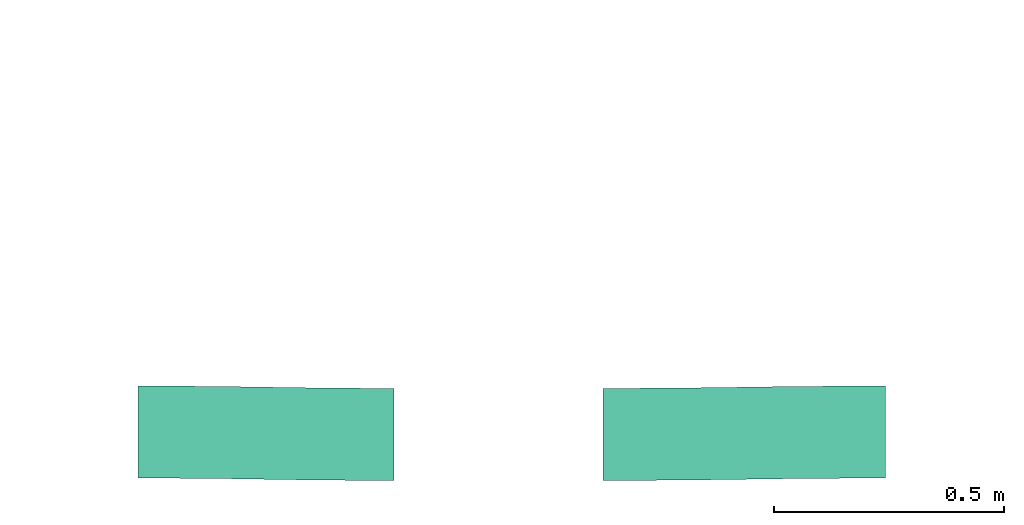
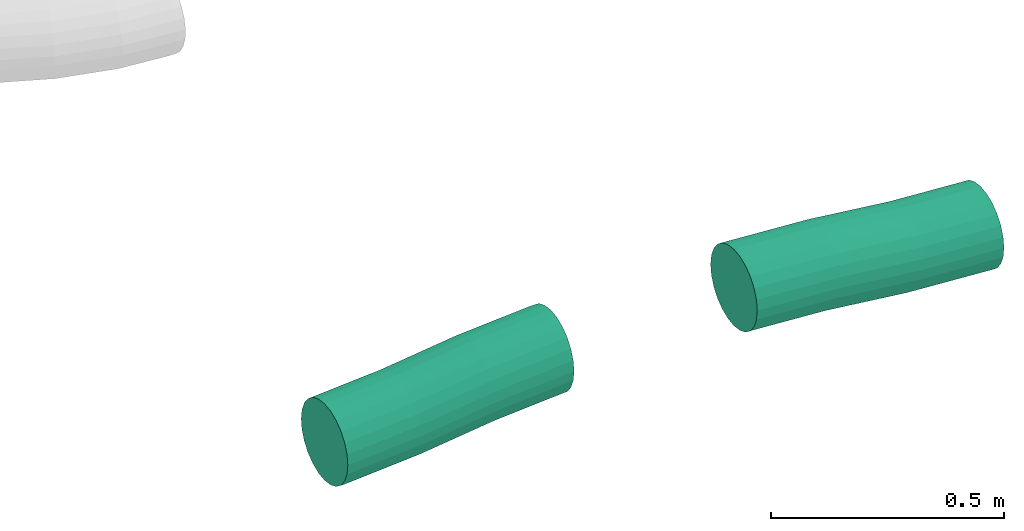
# One storey, part 2 of 3: 2 flow segments.
"""IFC2X3 building model written with IfcOpenShell, lengths in millimetres."""

from ifc_helpers import new_model, entity, si_unit, converted_unit, derived_unit, direction, frame, origin, place, context, subcontext, project, spatial, faceted_brep, type_object, element, save


model = new_model("IFC2X3")

# Units and contexts
model_context = context("Model", 3, precision=0.01, world=origin(), true_north=direction((6.123233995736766e-17, 1.0)))
body_context = subcontext(model_context, "Body", "Model", "MODEL_VIEW")
ifc_project = project(units=[si_unit("LENGTHUNIT", "METRE", prefix="MILLI"), converted_unit("PLANEANGLEUNIT", "DEGREE", entity("IfcPlaneAngleMeasure", 0.017453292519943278), si_unit("PLANEANGLEUNIT", "RADIAN"), dimensions=[0, 0, 0, 0, 0, 0, 0]), si_unit("AREAUNIT", "SQUARE_METRE"), derived_unit("THERMALTRANSMITTANCEUNIT", [(si_unit("MASSUNIT", "GRAM", prefix="KILO"), 1), (si_unit("THERMODYNAMICTEMPERATUREUNIT", "KELVIN"), -1), (si_unit("TIMEUNIT", "SECOND"), -3)])], contexts=[model_context])

# Site, building, storey
site_placement = place(None, origin())
site = spatial("IfcSite", under=ifc_project, at=site_placement, Name="Default", CompositionType="ELEMENT")
building_placement = place(site_placement, origin())
building = spatial("IfcBuilding", under=site, at=building_placement, Name="Praça Pedro II, 1301 - Centro (Sul), Teresina - PI, 64001-100", CompositionType="ELEMENT")
storey_placement = place(building_placement, origin())
storey = spatial("IfcBuildingStorey", under=building, at=storey_placement, Name="Nível 1", CompositionType="ELEMENT", Elevation=0.0)

# Flow segments
duct_segment_type = type_object("IfcDuctSegmentType", Name="Duto flexível redondo:Flexível - Redondo", PredefinedType="FLEXIBLESEGMENT")
flow_segment_1_placement = place(storey_placement, frame((36801.809507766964, -55167.35806085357, 2407.7816113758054)))
element("IfcFlowSegment", 1, at=flow_segment_1_placement, inside=storey, type_object=duct_segment_type, Name="Duto flexível redondo:Flexível - Redondo", ObjectType="Duto flexível redondo:Flexível - Redondo", context=body_context, shape_type="Brep", body=[
    faceted_brep([(0.0, 10.91952467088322, 75.71336772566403), (0.0, 7.512107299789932, 101.59527223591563), (0.0, 10.91952467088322, 127.47717674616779), (0.0, 20.909566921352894, 151.59527223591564), (0.0, 36.80142918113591, 172.30595035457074), (0.0, 57.51210729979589, 188.19781261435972), (0.0, 81.6302027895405, 198.1878548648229), (0.0, 107.51210729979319, 201.59527223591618), (0.0, 133.39401181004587, 198.1878548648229), (0.0, 157.51210729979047, 188.19781261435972), (0.0, 178.22278541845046, 172.30595035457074), (0.0, 194.11464767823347, 151.59527223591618), (0.0, 204.10468992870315, 127.47717674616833), (0.0, 207.51210729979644, 101.59527223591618), (0.0, 204.10468992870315, 75.71336772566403), (0.0, 194.11464767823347, 51.59527223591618), (0.0, 178.22278541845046, 30.884594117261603), (0.0, 157.51210729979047, 14.992731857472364), (0.0, 133.39401181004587, 5.002689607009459), (0.0, 107.51210729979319, 1.5952722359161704), (0.0, 81.6302027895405, 5.002689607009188), (0.0, 57.51210729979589, 14.992731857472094), (0.0, 36.80142918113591, 30.884594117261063), (0.0, 20.909566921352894, 51.59527223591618), (8.95952900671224, 204.10468992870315, 75.71336772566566), (9.863963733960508, 194.11464767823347, 51.59527223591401), (10.609189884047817, 178.22278541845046, 30.884594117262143), (7.957521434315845, 207.51210729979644, 101.59527223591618), (11.144421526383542, 157.51210729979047, 14.99273185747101), (11.43318350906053, 133.39401181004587, 5.002689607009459), (11.455797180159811, 107.51210729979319, 1.5952722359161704), (11.21072145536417, 81.6302027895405, 5.002689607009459), (10.714657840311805, 57.51210729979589, 14.99273185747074), (10.001412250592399, 36.80142918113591, 30.88459411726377), (9.11959119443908, 20.909566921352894, 51.59527223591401), (8.129289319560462, 10.91952467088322, 75.71336772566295), (7.09799406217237, 7.512107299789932, 101.59527223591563), (6.095986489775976, 10.91952467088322, 127.47717674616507), (5.191551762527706, 20.909566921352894, 151.59527223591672), (4.446325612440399, 36.80142918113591, 172.30595035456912), (3.6223319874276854, 81.6302027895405, 198.1878548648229), (3.5997183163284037, 107.51210729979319, 201.59527223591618), (3.911093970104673, 57.51210729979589, 188.1978126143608), (4.340857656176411, 157.51210729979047, 188.19781261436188), (5.054103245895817, 178.22278541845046, 172.30595035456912), (3.844794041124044, 133.39401181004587, 198.1878548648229), (6.926226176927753, 204.10468992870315, 127.47717674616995), (5.935924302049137, 194.11464767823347, 151.59527223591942), (556.5663529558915, 14.992731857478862, 105.67513564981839), (556.5663529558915, 30.884594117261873, 84.96445753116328), (556.5663529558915, 51.59527223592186, 69.07259527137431), (556.5663529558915, 75.71336772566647, 59.082553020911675), (556.5663529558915, 101.59527223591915, 55.67513564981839), (556.5663529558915, 127.47717674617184, 59.082553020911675), (556.5663529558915, 151.59527223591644, 69.07259527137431), (556.5663529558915, 172.30595035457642, 84.96445753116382), (556.5663529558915, 188.19781261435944, 105.67513564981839), (556.5663529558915, 198.18785486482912, 129.79323113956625), (556.5663529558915, 201.5952722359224, 155.6751356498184), (556.5663529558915, 198.18785486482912, 181.55704016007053), (556.5663529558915, 188.19781261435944, 205.6751356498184), (556.5663529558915, 172.30595035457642, 226.38581376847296), (556.5663529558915, 151.59527223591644, 242.27767602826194), (556.5663529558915, 127.47717674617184, 252.2677182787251), (556.5663529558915, 101.59527223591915, 255.6751356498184), (556.5663529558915, 75.71336772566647, 252.2677182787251), (556.5663529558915, 51.59527223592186, 242.27767602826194), (556.5663529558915, 30.884594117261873, 226.38581376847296), (556.5663529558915, 14.992731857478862, 205.67513564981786), (556.5663529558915, 5.002689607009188, 181.55704016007), (556.5663529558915, 1.5952722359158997, 155.67513564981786), (556.5663529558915, 5.002689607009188, 129.79323113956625), (186.91065694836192, 205.97155066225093, 115.67595754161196), (189.68997416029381, 202.54883293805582, 89.93389823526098), (192.1986488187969, 192.54498024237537, 65.94203019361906), (194.2657188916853, 176.64173860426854, 45.33535957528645), (195.75031696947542, 155.9228876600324, 29.518196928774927), (196.55127014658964, 131.80038286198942, 19.56845574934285), (196.61399478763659, 105.91813304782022, 16.164194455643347), (195.93421631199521, 80.0399707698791, 19.537407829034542), (194.55826049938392, 55.92945002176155, 29.458216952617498), (192.57989646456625, 35.229662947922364, 45.25053507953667), (190.1339464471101, 19.351265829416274, 65.83814182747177), (187.38709789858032, 9.376345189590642, 89.81802581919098), (184.52654400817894, 5.984675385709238, 115.55599758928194), (181.74722679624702, 9.407393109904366, 141.29805689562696), (179.23855213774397, 19.411245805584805, 165.2899249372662), (177.17148206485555, 35.31448744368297, 185.8965955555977), (175.68688398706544, 56.033338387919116, 201.71375820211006), (174.88593080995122, 80.15584318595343, 211.66349938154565), (174.82320616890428, 106.03809300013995, 215.06776067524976), (175.50298464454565, 131.91625527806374, 211.69454730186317), (176.87894045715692, 156.0267760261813, 201.77373817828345), (178.85730449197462, 176.72656310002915, 185.98142005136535), (184.0501030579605, 202.57988085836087, 141.4139293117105), (181.30325450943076, 192.60496021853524, 165.39381330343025), (374.8191261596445, 199.69998642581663, 115.97235099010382), (377.3278008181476, 189.6961337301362, 91.98048294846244), (372.0398089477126, 203.12270415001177, 141.71441029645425), (379.39487089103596, 173.79289209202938, 71.37381233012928), (380.8794689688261, 153.0740411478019, 55.55664968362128), (381.6804221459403, 128.95153634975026, 45.60690850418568), (381.7431467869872, 103.06928653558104, 42.20264721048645), (381.06336831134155, 77.19112425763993, 45.57586058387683), (379.6874124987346, 53.08060350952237, 55.49666970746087), (377.70904846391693, 32.38081643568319, 71.28898783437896), (372.516249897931, 6.527498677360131, 115.85647857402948), (369.6556960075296, 3.135828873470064, 141.5944503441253), (375.2630984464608, 16.5024193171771, 91.87659458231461), (366.8763787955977, 6.558546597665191, 167.33650965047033), (364.3677041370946, 16.56239929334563, 191.32837769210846), (362.30063406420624, 32.465640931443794, 211.9350483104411), (360.8160359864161, 53.18449187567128, 227.75221095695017), (360.0150828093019, 77.30699667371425, 237.70195213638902), (359.95235816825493, 103.18924648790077, 241.10621343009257), (360.63213664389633, 129.06740876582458, 237.73300005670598), (362.0080924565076, 153.17792951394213, 227.8121909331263), (363.98645649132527, 173.87771658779, 212.01987280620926), (366.4324065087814, 189.75611370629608, 191.4322660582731), (369.1792550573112, 199.7310343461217, 167.45238206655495), (550.4703664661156, 198.18785486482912, 129.79323113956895), (551.3748011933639, 188.19781261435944, 105.6751356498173), (549.4683588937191, 201.5952722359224, 155.67513564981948), (552.1200273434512, 172.30595035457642, 84.96445753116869), (552.6552589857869, 151.59527223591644, 69.07259527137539), (552.9440209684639, 127.47717674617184, 59.08255302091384), (552.9666346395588, 101.59527223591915, 55.675135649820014), (552.7215589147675, 75.71336772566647, 59.082553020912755), (552.2254952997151, 51.59527223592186, 69.07259527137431), (551.5122497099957, 30.884594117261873, 84.96445753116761), (549.6401267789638, 5.002689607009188, 129.79323113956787), (548.6088315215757, 1.5952722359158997, 155.67513564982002), (550.6304286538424, 14.992731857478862, 105.67513564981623), (547.6068239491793, 5.002689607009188, 181.5570401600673), (546.702389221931, 14.992731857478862, 205.67513564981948), (545.9571630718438, 30.884594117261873, 226.38581376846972), (545.4219314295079, 51.59527223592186, 242.2776760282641), (545.133169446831, 75.71336772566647, 252.26771827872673), (545.1105557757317, 101.59527223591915, 255.67513564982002), (545.3556315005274, 127.47717674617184, 252.2677182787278), (545.8516951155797, 151.59527223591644, 242.27767602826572), (546.5649407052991, 172.30595035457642, 226.38581376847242), (547.4467617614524, 188.19781261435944, 205.67513564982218), (548.437063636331, 198.18785486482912, 181.55704016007)], [[[0, 1, 2, 3, 4, 5, 6, 7, 8, 9, 10, 11, 12, 13, 14, 15, 16, 17, 18, 19, 20, 21, 22, 23]], [[15, 14, 24, 25]], [[16, 15, 25, 26]], [[13, 27, 24, 14]], [[18, 17, 28, 29]], [[19, 18, 29, 30]], [[26, 28, 17, 16]], [[19, 30, 31, 20]], [[20, 31, 32, 21]], [[21, 32, 33, 22]], [[23, 34, 35, 0]], [[0, 35, 36, 1]], [[22, 33, 34, 23]], [[37, 38, 3, 2]], [[36, 37, 2, 1]], [[3, 38, 39, 4]], [[40, 41, 7, 6]], [[42, 40, 6, 5]], [[4, 39, 42, 5]], [[9, 43, 44, 10]], [[45, 43, 9, 8]], [[7, 41, 45, 8]], [[46, 27, 13, 12]], [[47, 46, 12, 11]], [[44, 47, 11, 10]], [[48, 49, 50, 51, 52, 53, 54, 55, 56, 57, 58, 59, 60, 61, 62, 63, 64, 65, 66, 67, 68, 69, 70, 71]], [[27, 72, 73, 24]], [[24, 73, 74, 25]], [[75, 26, 25, 74]], [[28, 76, 77, 29]], [[29, 77, 78, 30]], [[76, 28, 26, 75]], [[31, 30, 78, 79]], [[32, 31, 79, 80]], [[80, 81, 33, 32]], [[34, 33, 81, 82]], [[35, 34, 82, 83]], [[36, 35, 83, 84]], [[85, 86, 38, 37]], [[84, 85, 37, 36]], [[39, 38, 86, 87]], [[88, 89, 40, 42]], [[87, 88, 42, 39]], [[41, 40, 89, 90]], [[91, 92, 43, 45]], [[90, 91, 45, 41]], [[93, 44, 43, 92]], [[94, 72, 27, 46]], [[95, 94, 46, 47]], [[95, 47, 44, 93]], [[96, 97, 74, 73]], [[98, 96, 73, 72]], [[99, 75, 74, 97]], [[100, 101, 77, 76]], [[100, 76, 75, 99]], [[102, 78, 77, 101]], [[103, 104, 80, 79]], [[102, 103, 79, 78]], [[104, 105, 81, 80]], [[106, 107, 84, 83]], [[108, 106, 83, 82]], [[105, 108, 82, 81]], [[85, 84, 107, 109]], [[86, 85, 109, 110]], [[87, 86, 110, 111]], [[89, 88, 112, 113]], [[90, 89, 113, 114]], [[111, 112, 88, 87]], [[90, 114, 115, 91]], [[91, 115, 116, 92]], [[117, 93, 92, 116]], [[93, 117, 118, 95]], [[95, 118, 119, 94]], [[98, 72, 94, 119]], [[120, 121, 97, 96]], [[122, 120, 96, 98]], [[123, 99, 97, 121]], [[124, 125, 101, 100]], [[124, 100, 99, 123]], [[126, 102, 101, 125]], [[127, 128, 104, 103]], [[126, 127, 103, 102]], [[105, 104, 128, 129]], [[130, 131, 107, 106]], [[132, 130, 106, 108]], [[129, 132, 108, 105]], [[109, 107, 131, 133]], [[110, 109, 133, 134]], [[111, 110, 134, 135]], [[113, 112, 136, 137]], [[114, 113, 137, 138]], [[135, 136, 112, 111]], [[114, 138, 139, 115]], [[115, 139, 140, 116]], [[116, 140, 141, 117]], [[117, 141, 142, 118]], [[118, 142, 143, 119]], [[122, 98, 119, 143]], [[120, 122, 58, 57]], [[121, 120, 57, 56]], [[123, 121, 56, 55]], [[125, 124, 54, 53]], [[126, 125, 53, 52]], [[123, 55, 54, 124]], [[126, 52, 51, 127]], [[127, 51, 50, 128]], [[128, 50, 49, 129]], [[132, 48, 71, 130]], [[130, 71, 70, 131]], [[132, 129, 49, 48]], [[131, 70, 69, 133]], [[133, 69, 68, 134]], [[134, 68, 67, 135]], [[136, 66, 65, 137]], [[137, 65, 64, 138]], [[135, 67, 66, 136]], [[139, 138, 64, 63]], [[140, 139, 63, 62]], [[141, 140, 62, 61]], [[143, 142, 60, 59]], [[122, 143, 59, 58]], [[61, 60, 142, 141]]]),
])
flow_segment_2_placement = place(storey_placement, frame((37811.57586072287, -55167.358060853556, 2407.7816113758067)))
element("IfcFlowSegment", 2, at=flow_segment_2_placement, inside=storey, type_object=duct_segment_type, Name="Duto flexível redondo:Flexível - Redondo", ObjectType="Duto flexível redondo:Flexível - Redondo", context=body_context, shape_type="Brep", body=[
    faceted_brep([(0.0, 5.002689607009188, 129.79323113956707), (0.0, 1.5952722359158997, 155.67513564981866), (0.0, 5.002689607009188, 181.5570401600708), (0.0, 14.992731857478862, 205.67513564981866), (0.0, 30.884594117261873, 226.38581376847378), (0.0, 51.59527223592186, 242.27767602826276), (0.0, 75.71336772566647, 252.26771827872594), (0.0, 101.59527223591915, 255.67513564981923), (0.0, 127.47717674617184, 252.26771827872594), (0.0, 151.59527223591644, 242.27767602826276), (0.0, 172.30595035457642, 226.38581376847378), (0.0, 188.19781261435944, 205.6751356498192), (0.0, 198.18785486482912, 181.55704016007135), (0.0, 201.5952722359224, 155.6751356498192), (0.0, 198.18785486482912, 129.79323113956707), (0.0, 188.19781261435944, 105.6751356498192), (0.0, 172.30595035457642, 84.96445753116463), (0.0, 151.59527223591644, 69.07259527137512), (0.0, 127.47717674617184, 59.082553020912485), (0.0, 101.59527223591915, 55.6751356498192), (0.0, 75.71336772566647, 59.082553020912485), (0.0, 51.59527223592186, 69.07259527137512), (0.0, 30.884594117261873, 84.96445753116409), (0.0, 14.992731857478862, 105.6751356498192), (5.540152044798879, 198.18785486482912, 129.7932311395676), (4.725937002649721, 188.19781261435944, 105.67513564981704), (6.442206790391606, 201.5952722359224, 155.6751356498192), (4.055049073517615, 172.30595035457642, 84.96445753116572), (3.3132509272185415, 127.47717674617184, 59.082553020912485), (3.2928930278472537, 101.59527223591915, 55.6751356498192), (3.573208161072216, 151.5952722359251, 69.07259527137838), (3.960101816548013, 51.59527223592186, 69.07259527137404), (4.602199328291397, 30.884594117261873, 84.96445753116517), (3.5135218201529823, 75.71336772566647, 59.082553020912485), (6.287573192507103, 5.002689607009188, 129.7932311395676), (7.215994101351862, 1.5952722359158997, 155.67513564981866), (5.396056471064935, 14.992731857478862, 105.67513564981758), (8.118048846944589, 5.002689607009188, 181.5570401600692), (8.932263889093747, 14.992731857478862, 205.6751356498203), (9.603151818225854, 30.884594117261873, 226.38581376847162), (10.084992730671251, 51.59527223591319, 242.27767602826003), (10.344949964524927, 75.71336772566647, 252.26771827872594), (10.365307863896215, 101.59527223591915, 255.67513564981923), (10.144679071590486, 127.47717674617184, 252.26771827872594), (9.698099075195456, 151.59527223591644, 242.27767602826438), (9.056001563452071, 172.30595035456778, 226.38581376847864), (8.262144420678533, 188.19781261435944, 205.67513564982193), (7.3706276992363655, 198.18785486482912, 181.55704016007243), (613.9349562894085, 20.909566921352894, 51.59527223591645), (613.9349562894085, 36.80142918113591, 30.884594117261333), (613.9349562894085, 57.51210729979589, 14.992731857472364), (613.9349562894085, 81.6302027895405, 5.002689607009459), (613.9349562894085, 107.51210729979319, 1.5952722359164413), (613.9349562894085, 133.39401181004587, 5.00268960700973), (613.9349562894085, 157.51210729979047, 14.992731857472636), (613.9349562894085, 178.22278541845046, 30.884594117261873), (613.9349562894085, 194.11464767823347, 51.59527223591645), (613.9349562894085, 204.10468992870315, 75.7133677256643), (613.9349562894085, 207.51210729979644, 101.59527223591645), (613.9349562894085, 204.10468992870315, 127.4771767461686), (613.9349562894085, 194.11464767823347, 151.59527223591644), (613.9349562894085, 178.22278541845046, 172.30595035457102), (613.9349562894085, 157.51210729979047, 188.19781261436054), (613.9349562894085, 133.39401181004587, 198.18785486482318), (613.9349562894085, 107.51210729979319, 201.59527223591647), (613.9349562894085, 81.6302027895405, 198.18785486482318), (613.9349562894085, 57.51210729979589, 188.19781261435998), (613.9349562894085, 36.80142918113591, 172.30595035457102), (613.9349562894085, 20.909566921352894, 151.5952722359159), (613.9349562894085, 10.91952467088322, 127.47717674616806), (613.9349562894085, 7.512107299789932, 101.5952722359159), (613.9349562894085, 10.91952467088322, 75.7133677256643), (201.22892372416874, 199.70398833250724, 115.93577356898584), (198.95846797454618, 189.7026635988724, 91.92079995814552), (203.74432233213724, 203.12390537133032, 141.70343113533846), (197.08768289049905, 173.80150492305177, 71.29509106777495), (195.74405938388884, 153.08414999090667, 55.46425487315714), (195.01916317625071, 128.96245230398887, 45.5071366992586), (194.9623947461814, 103.08026569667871, 42.10229769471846), (195.57762276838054, 77.20141841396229, 45.481772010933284), (196.8229204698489, 53.08951113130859, 55.41525405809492), (198.61342287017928, 32.387730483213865, 71.22579345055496), (203.3131232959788, 6.5291800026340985, 115.84111126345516), (205.90204450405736, 3.134627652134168, 141.6054295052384), (200.82711018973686, 16.506868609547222, 91.83592805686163), (208.4174431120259, 6.554544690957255, 167.37308707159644), (210.68789886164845, 16.555869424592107, 191.38806068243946), (212.55868394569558, 32.4570281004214, 212.01376957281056), (213.90230745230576, 53.17438303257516, 227.8446057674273), (214.6272036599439, 77.29608071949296, 237.80172394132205), (214.6839720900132, 103.17826732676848, 241.20656294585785), (214.06874406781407, 129.05711460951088, 237.82708862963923), (212.8234463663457, 153.16902189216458, 227.8936065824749), (211.03294396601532, 173.8708025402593, 212.08306719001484), (208.81925664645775, 189.75166441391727, 191.47293258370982), (206.33324354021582, 199.72935302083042, 167.46774937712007), (408.0329117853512, 205.97275188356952, 115.66497838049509), (405.5175131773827, 202.55283484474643, 89.89732081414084), (403.2470574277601, 192.55151011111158, 65.8823472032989), (401.37627234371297, 176.65035143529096, 45.25663831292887), (400.0326488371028, 155.9329965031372, 29.425802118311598), (399.30775262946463, 131.81129881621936, 19.46868394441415), (399.2509841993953, 105.92911220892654, 16.063844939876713), (399.8662122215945, 80.0502649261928, 19.44331925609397), (401.11150992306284, 55.93835764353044, 29.376801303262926), (402.9020123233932, 35.23657699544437, 45.187340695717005), (405.1156996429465, 19.3557151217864, 65.79747530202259), (407.60171274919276, 9.378026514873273, 89.80265850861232), (410.1906339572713, 5.983474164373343, 115.56697675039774), (412.7060325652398, 9.40339120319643, 141.3346343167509), (414.97648831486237, 19.40471593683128, 165.34960792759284), (416.8472733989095, 35.305874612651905, 185.9753168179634), (418.1908969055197, 56.023229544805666, 201.80615301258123), (418.9157931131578, 80.14492723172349, 211.76327118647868), (418.97256154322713, 106.02711383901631, 215.1681101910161), (418.357333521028, 131.90596112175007, 211.78863587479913), (417.11203581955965, 156.0178684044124, 201.8551538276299), (415.32153341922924, 176.71964905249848, 186.04461443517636), (410.62183299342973, 202.57819953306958, 141.42929662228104), (413.1078460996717, 192.60051092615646, 165.4344798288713), (606.7189621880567, 207.51210729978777, 101.595272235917), (605.816907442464, 204.10468992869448, 75.71336772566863), (605.0026924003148, 194.11464767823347, 51.59527223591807), (604.3318044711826, 178.22278541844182, 30.884594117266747), (603.8499635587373, 157.51210729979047, 14.992731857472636), (603.5900063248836, 133.39401181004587, 5.002689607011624), (603.5696484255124, 107.51210729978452, 1.595272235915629), (603.790277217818, 81.6302027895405, 5.00268960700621), (604.236857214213, 57.51210729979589, 14.992731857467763), (604.8789547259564, 36.80142918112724, 30.88459411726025), (605.67281186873, 20.909566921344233, 51.59527223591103), (606.5643285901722, 10.919524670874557, 75.7133677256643), (607.4927494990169, 7.5121072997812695, 101.59527223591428), (608.3948042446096, 10.919524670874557, 127.47717674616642), (609.2090192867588, 20.909566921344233, 151.59527223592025), (609.879907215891, 36.80142918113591, 172.30595035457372), (610.3617481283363, 57.51210729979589, 188.19781261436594), (610.62170536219, 81.6302027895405, 198.18785486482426), (610.6420632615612, 107.51210729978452, 201.5952722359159), (610.4214344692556, 133.39401181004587, 198.187854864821), (609.9748544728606, 157.51210729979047, 188.19781261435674), (609.3327569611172, 178.22278541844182, 172.30595035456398), (607.6473830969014, 204.10468992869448, 127.47717674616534), (608.5388998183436, 194.11464767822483, 151.59527223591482)], [[[0, 1, 2, 3, 4, 5, 6, 7, 8, 9, 10, 11, 12, 13, 14, 15, 16, 17, 18, 19, 20, 21, 22, 23]], [[24, 25, 15, 14]], [[26, 24, 14, 13]], [[15, 25, 27, 16]], [[28, 29, 19, 18]], [[30, 28, 18, 17]], [[16, 27, 30, 17]], [[21, 31, 32, 22]], [[33, 31, 21, 20]], [[19, 29, 33, 20]], [[34, 35, 1, 0]], [[36, 34, 0, 23]], [[32, 36, 23, 22]], [[3, 2, 37, 38]], [[4, 3, 38, 39]], [[1, 35, 37, 2]], [[6, 5, 40, 41]], [[7, 6, 41, 42]], [[39, 40, 5, 4]], [[7, 42, 43, 8]], [[8, 43, 44, 9]], [[9, 44, 45, 10]], [[11, 46, 47, 12]], [[12, 47, 26, 13]], [[10, 45, 46, 11]], [[48, 49, 50, 51, 52, 53, 54, 55, 56, 57, 58, 59, 60, 61, 62, 63, 64, 65, 66, 67, 68, 69, 70, 71]], [[72, 73, 25, 24]], [[74, 72, 24, 26]], [[27, 25, 73, 75]], [[76, 77, 28, 30]], [[75, 76, 30, 27]], [[29, 28, 77, 78]], [[79, 80, 31, 33]], [[78, 79, 33, 29]], [[81, 32, 31, 80]], [[82, 83, 35, 34]], [[84, 82, 34, 36]], [[84, 36, 32, 81]], [[35, 83, 85, 37]], [[37, 85, 86, 38]], [[87, 39, 38, 86]], [[40, 88, 89, 41]], [[41, 89, 90, 42]], [[88, 40, 39, 87]], [[43, 42, 90, 91]], [[44, 43, 91, 92]], [[92, 93, 45, 44]], [[46, 45, 93, 94]], [[47, 46, 94, 95]], [[26, 47, 95, 74]], [[72, 74, 96, 97]], [[73, 72, 97, 98]], [[75, 73, 98, 99]], [[77, 76, 100, 101]], [[78, 77, 101, 102]], [[99, 100, 76, 75]], [[78, 102, 103, 79]], [[79, 103, 104, 80]], [[105, 81, 80, 104]], [[81, 105, 106, 84]], [[84, 106, 107, 82]], [[108, 83, 82, 107]], [[109, 110, 86, 85]], [[108, 109, 85, 83]], [[111, 87, 86, 110]], [[112, 113, 89, 88]], [[112, 88, 87, 111]], [[114, 90, 89, 113]], [[115, 116, 92, 91]], [[114, 115, 91, 90]], [[116, 117, 93, 92]], [[118, 96, 74, 95]], [[119, 118, 95, 94]], [[117, 119, 94, 93]], [[97, 96, 120, 121]], [[98, 97, 121, 122]], [[99, 98, 122, 123]], [[101, 100, 124, 125]], [[102, 101, 125, 126]], [[123, 124, 100, 99]], [[102, 126, 127, 103]], [[103, 127, 128, 104]], [[104, 128, 129, 105]], [[105, 129, 130, 106]], [[106, 130, 131, 107]], [[132, 108, 107, 131]], [[133, 134, 110, 109]], [[132, 133, 109, 108]], [[135, 111, 110, 134]], [[136, 137, 113, 112]], [[136, 112, 111, 135]], [[138, 114, 113, 137]], [[139, 140, 116, 115]], [[138, 139, 115, 114]], [[117, 116, 140, 141]], [[142, 120, 96, 118]], [[143, 142, 118, 119]], [[141, 143, 119, 117]], [[120, 58, 57, 121]], [[121, 57, 56, 122]], [[122, 56, 55, 123]], [[53, 52, 126, 125]], [[54, 53, 125, 124]], [[123, 55, 54, 124]], [[127, 126, 52, 51]], [[128, 127, 51, 50]], [[129, 128, 50, 49]], [[131, 130, 48, 71]], [[132, 131, 71, 70]], [[49, 48, 130, 129]], [[133, 132, 70, 69]], [[134, 133, 69, 68]], [[135, 134, 68, 67]], [[137, 136, 66, 65]], [[138, 137, 65, 64]], [[135, 67, 66, 136]], [[138, 64, 63, 139]], [[139, 63, 62, 140]], [[140, 62, 61, 141]], [[143, 60, 59, 142]], [[142, 59, 58, 120]], [[143, 141, 61, 60]]]),
])

save(model, "model.ifc")
